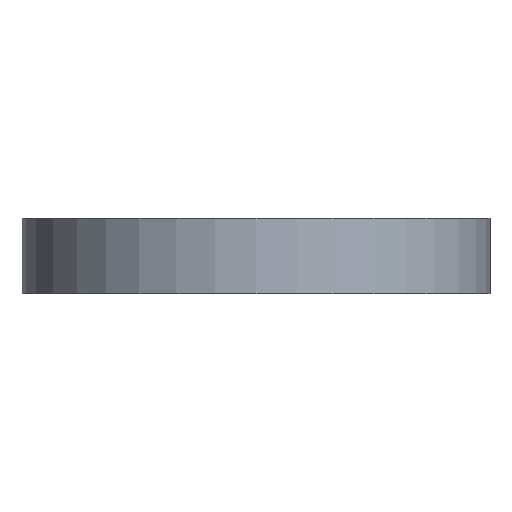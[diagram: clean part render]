
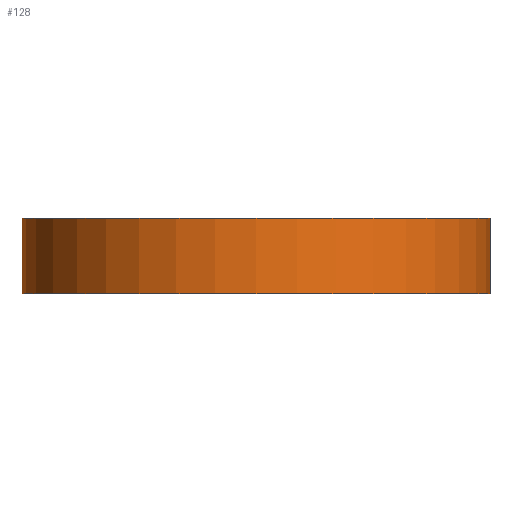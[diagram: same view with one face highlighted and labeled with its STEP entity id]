
A CAD part, front view. The second image highlights one B-rep face of the part: STEP entity #128.
In plain terms, the highlighted cylindrical face has radius 90 mm (diameter 180 mm), a partial arc.
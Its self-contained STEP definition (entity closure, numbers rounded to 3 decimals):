
#36 = VERTEX_POINT ( 'NONE', #823 ) ;
#43 = AXIS2_PLACEMENT_3D ( 'NONE', #776, #54, #773 ) ;
#54 = DIRECTION ( 'NONE',  ( 0., 0., -1. ) ) ;
#68 = LINE ( 'NONE', #568, #882 ) ;
#116 = EDGE_LOOP ( 'NONE', ( #195, #301, #145, #349 ) ) ;
#128 = ADVANCED_FACE ( 'NONE', ( #384 ), #418, .T. ) ;
#145 = ORIENTED_EDGE ( 'NONE', *, *, #203, .T. ) ;
#162 = DIRECTION ( 'NONE',  ( 0., 0., -1. ) ) ;
#171 = EDGE_CURVE ( 'NONE', #884, #36, #204, .T. ) ;
#195 = ORIENTED_EDGE ( 'NONE', *, *, #271, .F. ) ;
#203 = EDGE_CURVE ( 'NONE', #833, #884, #513, .T. ) ;
#204 = CIRCLE ( 'NONE', #553, 90. ) ;
#244 = CARTESIAN_POINT ( 'NONE',  ( 0., 0., 29. ) ) ;
#248 = EDGE_CURVE ( 'NONE', #833, #654, #912, .T. ) ;
#271 = EDGE_CURVE ( 'NONE', #654, #36, #68, .T. ) ;
#296 = DIRECTION ( 'NONE',  ( 1., 0., 0. ) ) ;
#301 = ORIENTED_EDGE ( 'NONE', *, *, #248, .F. ) ;
#320 = CARTESIAN_POINT ( 'NONE',  ( -90., 0., 0. ) ) ;
#349 = ORIENTED_EDGE ( 'NONE', *, *, #171, .T. ) ;
#374 = DIRECTION ( 'NONE',  ( 0., 0., 1. ) ) ;
#379 = CARTESIAN_POINT ( 'NONE',  ( -90., 0., 29. ) ) ;
#384 = FACE_OUTER_BOUND ( 'NONE', #116, .T. ) ;
#397 = DIRECTION ( 'NONE',  ( 0., 0., -1. ) ) ;
#418 = CYLINDRICAL_SURFACE ( 'NONE', #43, 90. ) ;
#500 = VECTOR ( 'NONE', #397, 1000. ) ;
#512 = AXIS2_PLACEMENT_3D ( 'NONE', #244, #865, #639 ) ;
#513 = LINE ( 'NONE', #633, #500 ) ;
#553 = AXIS2_PLACEMENT_3D ( 'NONE', #780, #374, #296 ) ;
#568 = CARTESIAN_POINT ( 'NONE',  ( 90., 0., 29. ) ) ;
#633 = CARTESIAN_POINT ( 'NONE',  ( -90., 0., 29. ) ) ;
#639 = DIRECTION ( 'NONE',  ( 1., 0., 0. ) ) ;
#654 = VERTEX_POINT ( 'NONE', #825 ) ;
#773 = DIRECTION ( 'NONE',  ( -1., 0., 0. ) ) ;
#776 = CARTESIAN_POINT ( 'NONE',  ( 0., 0., 29. ) ) ;
#780 = CARTESIAN_POINT ( 'NONE',  ( 0., 0., 0. ) ) ;
#823 = CARTESIAN_POINT ( 'NONE',  ( 90., 0., 0. ) ) ;
#825 = CARTESIAN_POINT ( 'NONE',  ( 90., 0., 29. ) ) ;
#833 = VERTEX_POINT ( 'NONE', #379 ) ;
#865 = DIRECTION ( 'NONE',  ( 0., 0., 1. ) ) ;
#882 = VECTOR ( 'NONE', #162, 1000. ) ;
#884 = VERTEX_POINT ( 'NONE', #320 ) ;
#912 = CIRCLE ( 'NONE', #512, 90. ) ;
